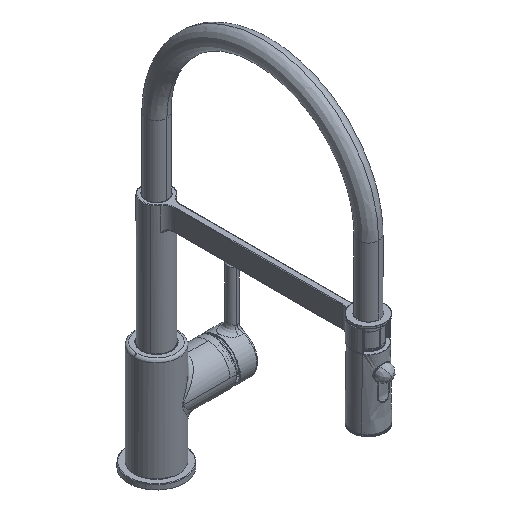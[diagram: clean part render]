
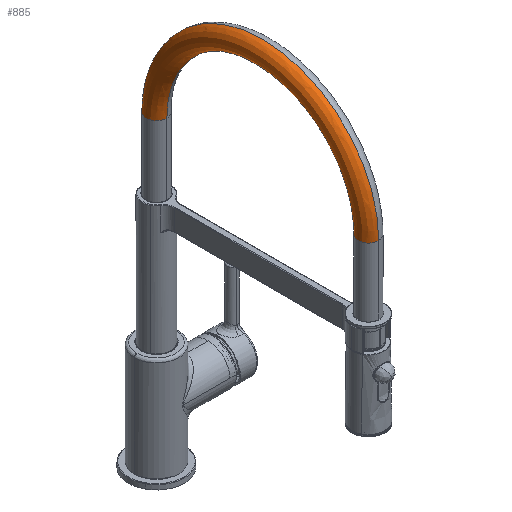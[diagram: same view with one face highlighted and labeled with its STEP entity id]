
A CAD part, isometric view. The second image highlights one B-rep face of the part: STEP entity #885.
In plain terms, the highlighted free-form (B-spline) face has degree [2, 2] with [9, 9] control points.
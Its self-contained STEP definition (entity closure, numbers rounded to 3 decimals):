
#885=ADVANCED_FACE('',(#2436),#24277,.T.);
#2436=FACE_OUTER_BOUND('',#4018,.T.);
#4018=EDGE_LOOP('',(#6996,#6997,#6998,#6999));
#6996=ORIENTED_EDGE('',*,*,#13924,.T.);
#6997=ORIENTED_EDGE('',*,*,#13918,.F.);
#6998=ORIENTED_EDGE('',*,*,#13923,.T.);
#6999=ORIENTED_EDGE('',*,*,#13925,.T.);
#13918=EDGE_CURVE('',#22177,#22174,#17500,.T.);
#13923=EDGE_CURVE('',#22177,#22181,#17501,.T.);
#13924=EDGE_CURVE('',#22180,#22174,#17502,.T.);
#13925=EDGE_CURVE('',#22181,#22180,#17503,.T.);
#17500=TRIMMED_CURVE($,#18281,(#46245),(#46246),.T.,.CARTESIAN.);
#17501=TRIMMED_CURVE($,#18282,(#46326),(#46327),.T.,.CARTESIAN.);
#17502=TRIMMED_CURVE($,#18283,(#46329),(#46330),.T.,.CARTESIAN.);
#17503=TRIMMED_CURVE($,#18284,(#46332),(#46333),.T.,.CARTESIAN.);
#18281=CIRCLE('',#27926,10.);
#18282=CIRCLE('',#27927,112.5);
#18283=CIRCLE('',#27928,92.5);
#18284=CIRCLE('',#27929,10.);
#22174=VERTEX_POINT('',#46221);
#22177=VERTEX_POINT('',#46224);
#22180=VERTEX_POINT('',#46227);
#22181=VERTEX_POINT('',#46228);
#24277=(
BOUNDED_SURFACE()
B_SPLINE_SURFACE(2,2,((#45890,#45891,#45892,#45893,#45894,#45895,#45896,
#45897,#45898),(#45899,#45900,#45901,#45902,#45903,#45904,#45905,#45906,
#45907),(#45908,#45909,#45910,#45911,#45912,#45913,#45914,#45915,#45916),
(#45917,#45918,#45919,#45920,#45921,#45922,#45923,#45924,#45925),(#45926,
#45927,#45928,#45929,#45930,#45931,#45932,#45933,#45934),(#45935,#45936,
#45937,#45938,#45939,#45940,#45941,#45942,#45943),(#45944,#45945,#45946,
#45947,#45948,#45949,#45950,#45951,#45952),(#45953,#45954,#45955,#45956,
#45957,#45958,#45959,#45960,#45961),(#45962,#45963,#45964,#45965,#45966,
#45967,#45968,#45969,#45970)),.UNSPECIFIED.,.T.,.F.,.F.)
B_SPLINE_SURFACE_WITH_KNOTS((3,2,2,2,3),(3,2,2,2,3),(0.,161.007,
322.013,483.02,644.026),(0.,15.708,
31.416,47.124,62.832),.UNSPECIFIED.)
GEOMETRIC_REPRESENTATION_ITEM()
RATIONAL_B_SPLINE_SURFACE(((1.,0.707,1.,0.707,1.,
0.707,1.,0.707,1.),(0.707,0.5,0.707,
0.5,0.707,0.5,0.707,0.5,0.707),(1.,
0.707,1.,0.707,1.,0.707,1.,0.707,
1.),(0.707,0.5,0.707,0.5,0.707,0.5,
0.707,0.5,0.707),(1.,0.707,1.,0.707,
1.,0.707,1.,0.707,1.),(0.707,0.5,0.707,
0.5,0.707,0.5,0.707,0.5,0.707),(1.,
0.707,1.,0.707,1.,0.707,1.,0.707,
1.),(0.707,0.5,0.707,0.5,0.707,0.5,
0.707,0.5,0.707),(1.,0.707,1.,0.707,
1.,0.707,1.,0.707,1.)))
REPRESENTATION_ITEM('')
SURFACE()
);
#27926=AXIS2_PLACEMENT_3D($,#46244,#30313,#30314);
#27927=AXIS2_PLACEMENT_3D($,#46325,#30315,#30316);
#27928=AXIS2_PLACEMENT_3D($,#46328,#30317,#30318);
#27929=AXIS2_PLACEMENT_3D($,#46331,#30319,#30320);
#30313=DIRECTION('',(0.,0.,-1.));
#30314=DIRECTION('',(-1.,0.,0.));
#30315=DIRECTION('',(0.,1.,0.));
#30316=DIRECTION('',(-1.,0.,0.));
#30317=DIRECTION('',(0.,-1.,0.));
#30318=DIRECTION('',(1.,0.,0.));
#30319=DIRECTION('',(0.,0.,1.));
#30320=DIRECTION('',(1.,0.,0.));
#45890=CARTESIAN_POINT('',(-215.,0.,124.7));
#45891=CARTESIAN_POINT('',(-215.,10.,124.7));
#45892=CARTESIAN_POINT('',(-205.,10.,124.7));
#45893=CARTESIAN_POINT('',(-195.,10.,124.7));
#45894=CARTESIAN_POINT('',(-195.,0.,124.7));
#45895=CARTESIAN_POINT('',(-195.,-10.,124.7));
#45896=CARTESIAN_POINT('',(-205.,-10.,124.7));
#45897=CARTESIAN_POINT('',(-215.,-10.,124.7));
#45898=CARTESIAN_POINT('',(-215.,0.,124.7));
#45899=CARTESIAN_POINT('',(-215.,0.,237.2));
#45900=CARTESIAN_POINT('',(-215.,10.,237.2));
#45901=CARTESIAN_POINT('',(-205.,10.,227.2));
#45902=CARTESIAN_POINT('',(-195.,10.,217.2));
#45903=CARTESIAN_POINT('',(-195.,0.,217.2));
#45904=CARTESIAN_POINT('',(-195.,-10.,217.2));
#45905=CARTESIAN_POINT('',(-205.,-10.,227.2));
#45906=CARTESIAN_POINT('',(-215.,-10.,237.2));
#45907=CARTESIAN_POINT('',(-215.,0.,237.2));
#45908=CARTESIAN_POINT('',(-102.5,0.,237.2));
#45909=CARTESIAN_POINT('',(-102.5,10.,237.2));
#45910=CARTESIAN_POINT('',(-102.5,10.,227.2));
#45911=CARTESIAN_POINT('',(-102.5,10.,217.2));
#45912=CARTESIAN_POINT('',(-102.5,0.,217.2));
#45913=CARTESIAN_POINT('',(-102.5,-10.,217.2));
#45914=CARTESIAN_POINT('',(-102.5,-10.,227.2));
#45915=CARTESIAN_POINT('',(-102.5,-10.,237.2));
#45916=CARTESIAN_POINT('',(-102.5,0.,237.2));
#45917=CARTESIAN_POINT('',(10.,0.,237.2));
#45918=CARTESIAN_POINT('',(10.,10.,237.2));
#45919=CARTESIAN_POINT('',(0.,10.,227.2));
#45920=CARTESIAN_POINT('',(-10.,10.,217.2));
#45921=CARTESIAN_POINT('',(-10.,0.,217.2));
#45922=CARTESIAN_POINT('',(-10.,-10.,217.2));
#45923=CARTESIAN_POINT('',(0.,-10.,227.2));
#45924=CARTESIAN_POINT('',(10.,-10.,237.2));
#45925=CARTESIAN_POINT('',(10.,0.,237.2));
#45926=CARTESIAN_POINT('',(10.,0.,124.7));
#45927=CARTESIAN_POINT('',(10.,10.,124.7));
#45928=CARTESIAN_POINT('',(0.,10.,124.7));
#45929=CARTESIAN_POINT('',(-10.,10.,124.7));
#45930=CARTESIAN_POINT('',(-10.,0.,124.7));
#45931=CARTESIAN_POINT('',(-10.,-10.,124.7));
#45932=CARTESIAN_POINT('',(0.,-10.,124.7));
#45933=CARTESIAN_POINT('',(10.,-10.,124.7));
#45934=CARTESIAN_POINT('',(10.,0.,124.7));
#45935=CARTESIAN_POINT('',(10.,0.,12.2));
#45936=CARTESIAN_POINT('',(10.,10.,12.2));
#45937=CARTESIAN_POINT('',(0.,10.,22.2));
#45938=CARTESIAN_POINT('',(-10.,10.,32.2));
#45939=CARTESIAN_POINT('',(-10.,0.,32.2));
#45940=CARTESIAN_POINT('',(-10.,-10.,32.2));
#45941=CARTESIAN_POINT('',(0.,-10.,22.2));
#45942=CARTESIAN_POINT('',(10.,-10.,12.2));
#45943=CARTESIAN_POINT('',(10.,0.,12.2));
#45944=CARTESIAN_POINT('',(-102.5,0.,12.2));
#45945=CARTESIAN_POINT('',(-102.5,10.,12.2));
#45946=CARTESIAN_POINT('',(-102.5,10.,22.2));
#45947=CARTESIAN_POINT('',(-102.5,10.,32.2));
#45948=CARTESIAN_POINT('',(-102.5,0.,32.2));
#45949=CARTESIAN_POINT('',(-102.5,-10.,32.2));
#45950=CARTESIAN_POINT('',(-102.5,-10.,22.2));
#45951=CARTESIAN_POINT('',(-102.5,-10.,12.2));
#45952=CARTESIAN_POINT('',(-102.5,0.,12.2));
#45953=CARTESIAN_POINT('',(-215.,0.,12.2));
#45954=CARTESIAN_POINT('',(-215.,10.,12.2));
#45955=CARTESIAN_POINT('',(-205.,10.,22.2));
#45956=CARTESIAN_POINT('',(-195.,10.,32.2));
#45957=CARTESIAN_POINT('',(-195.,0.,32.2));
#45958=CARTESIAN_POINT('',(-195.,-10.,32.2));
#45959=CARTESIAN_POINT('',(-205.,-10.,22.2));
#45960=CARTESIAN_POINT('',(-215.,-10.,12.2));
#45961=CARTESIAN_POINT('',(-215.,0.,12.2));
#45962=CARTESIAN_POINT('',(-215.,0.,124.7));
#45963=CARTESIAN_POINT('',(-215.,10.,124.7));
#45964=CARTESIAN_POINT('',(-205.,10.,124.7));
#45965=CARTESIAN_POINT('',(-195.,10.,124.7));
#45966=CARTESIAN_POINT('',(-195.,0.,124.7));
#45967=CARTESIAN_POINT('',(-195.,-10.,124.7));
#45968=CARTESIAN_POINT('',(-205.,-10.,124.7));
#45969=CARTESIAN_POINT('',(-215.,-10.,124.7));
#45970=CARTESIAN_POINT('',(-215.,0.,124.7));
#46221=CARTESIAN_POINT('',(-195.,0.,124.7));
#46224=CARTESIAN_POINT('',(-215.,0.,124.7));
#46227=CARTESIAN_POINT('',(-10.,0.,124.7));
#46228=CARTESIAN_POINT('',(10.,0.,124.7));
#46244=CARTESIAN_POINT('',(-205.,0.,124.7));
#46245=CARTESIAN_POINT('',(-215.,0.,124.7));
#46246=CARTESIAN_POINT('',(-195.,0.,124.7));
#46325=CARTESIAN_POINT('',(-102.5,0.,124.7));
#46326=CARTESIAN_POINT('',(-215.,0.,124.7));
#46327=CARTESIAN_POINT('',(10.,0.,124.7));
#46328=CARTESIAN_POINT('',(-102.5,0.,124.7));
#46329=CARTESIAN_POINT('',(-10.,0.,124.7));
#46330=CARTESIAN_POINT('',(-195.,0.,124.7));
#46331=CARTESIAN_POINT('',(0.,0.,124.7));
#46332=CARTESIAN_POINT('',(10.,0.,124.7));
#46333=CARTESIAN_POINT('',(-10.,0.,124.7));
